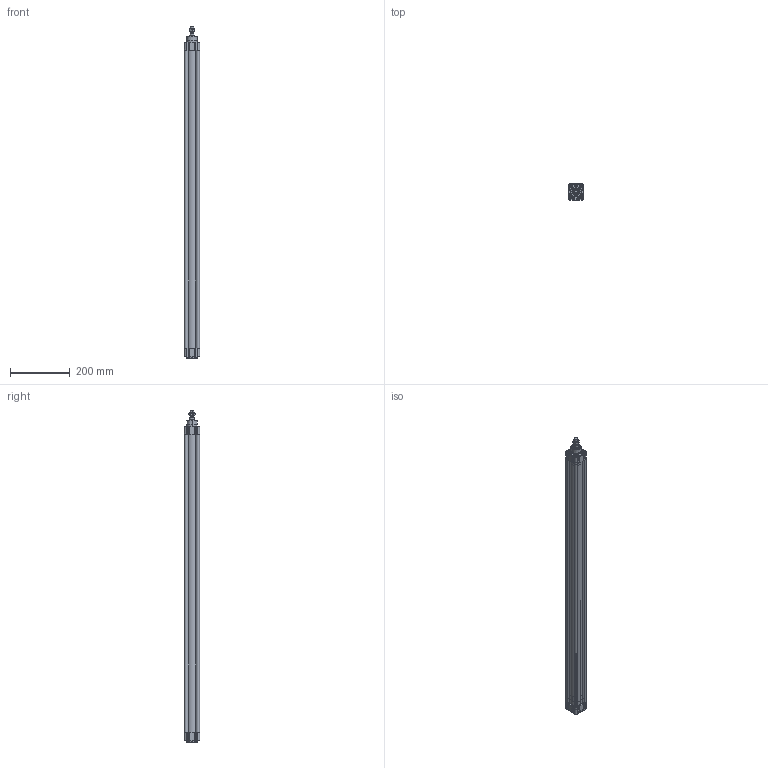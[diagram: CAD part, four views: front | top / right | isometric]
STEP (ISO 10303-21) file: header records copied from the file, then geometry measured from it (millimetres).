
FILE_DESCRIPTION (( 'STEP AP214' ), '1' );
FILE_NAME ('E11M20400950.STEP', '2021-10-25T16:01:59', ( '' ), ( '' ), 'SwSTEP 2.0', 'SolidWorks 2016', '' );
FILE_SCHEMA (( 'AUTOMOTIVE_DESIGN' ));
Length unit declared in the file: millimetre
Products named in the file (7): 000.531.7_000.531.0950; TA Ø40 ISO 15552 WEB; TP Ø40 ISO 15552 WEB; Pistone Ø40 ISO 15552; E11M20400950; 21.B01.0000_21.B01.0950; 21.751.0
Assembly tree (6 placements, depth 2):
  E11M20400950
    TP Ø40 ISO 15552 WEB
    TA Ø40 ISO 15552 WEB
    000.531.7_000.531.0950
    Pistone Ø40 ISO 15552
    21.B01.0000_21.B01.0950
    21.751.0
Bounding box: 53.07 x 53.09 x 1114 mm (x, y, z)
Volume: 1001027.9 mm3; surface area: 634483.2 mm2
Topology: 17 solids, 17 shells, 1452 faces, 3682 edges, 2328 vertices
Faces by surface type: plane 692, cylinder 467, cone 212, torus 65, bspline 16
Entity records: 57919 total; most frequent: CARTESIAN_POINT 8280, DIRECTION 7835, ORIENTED_EDGE 7364, EDGE_CURVE 3682, AXIS2_PLACEMENT_3D 2841, VERTEX_POINT 2328, LINE 2153, VECTOR 2153
